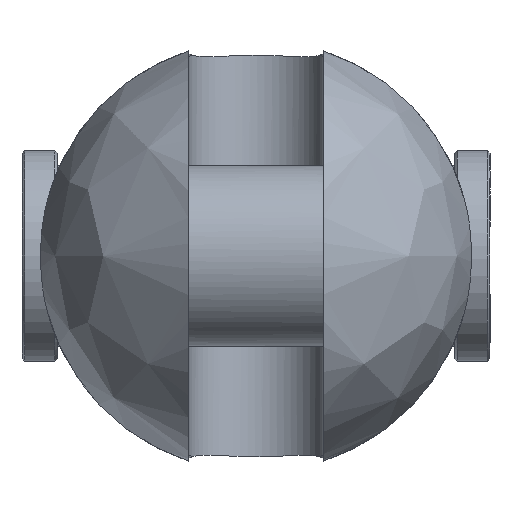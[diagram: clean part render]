
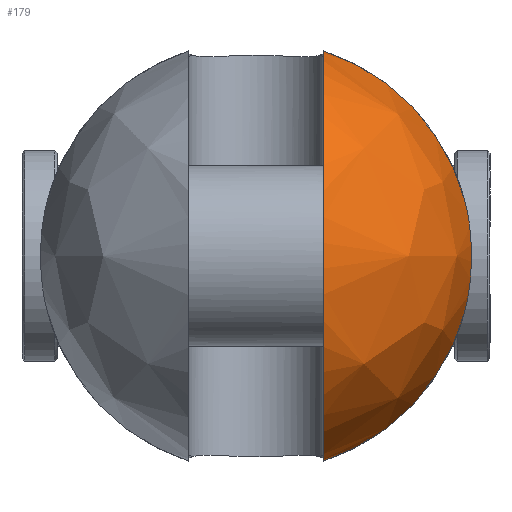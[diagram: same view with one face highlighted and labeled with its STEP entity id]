
A CAD part, left-side view. The second image highlights one B-rep face of the part: STEP entity #179.
In plain terms, the highlighted free-form (B-spline) face has degree [2, 2] with [9, 5] control points.
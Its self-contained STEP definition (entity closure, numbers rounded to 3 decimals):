
#179=ADVANCED_FACE('',(#320),#2417,.T.);
#320=FACE_OUTER_BOUND('',#481,.T.);
#481=EDGE_LOOP('',(#1194,#1195,#1196,#1197));
#1194=ORIENTED_EDGE('',*,*,#1575,.T.);
#1195=ORIENTED_EDGE('',*,*,#1603,.F.);
#1196=ORIENTED_EDGE('',*,*,#1615,.T.);
#1197=ORIENTED_EDGE('',*,*,#1595,.F.);
#1575=EDGE_CURVE('',#2249,#2248,#1983,.T.);
#1595=EDGE_CURVE('',#2249,#2261,#1993,.T.);
#1603=EDGE_CURVE('',#2268,#2248,#1994,.T.);
#1615=EDGE_CURVE('',#2268,#2261,#1789,.T.);
#1789=B_SPLINE_CURVE_WITH_KNOTS('',3,(#6091,#6092,#6093,#6094,#6095,#6096,
#6097,#6098,#6099,#6100,#6101,#6102,#6103,#6104),.UNSPECIFIED.,.F.,.F.,
(4,2,2,2,2,2,4),(0.,1.604,6.679,11.753,
16.828,21.902,23.506),.UNSPECIFIED.);
#1983=(
BOUNDED_CURVE()
B_SPLINE_CURVE(2,(#5867,#5868,#5869,#5870,#5871),.UNSPECIFIED.,.F.,.F.)
B_SPLINE_CURVE_WITH_KNOTS((3,2,3),(-128.258,-64.129,
0.),.UNSPECIFIED.)
CURVE()
GEOMETRIC_REPRESENTATION_ITEM()
RATIONAL_B_SPLINE_CURVE((1.,0.707,1.,0.707,1.))
REPRESENTATION_ITEM('')
);
#1993=(
BOUNDED_CURVE()
B_SPLINE_CURVE(2,(#5961,#5962,#5963),.UNSPECIFIED.,.F.,.F.)
B_SPLINE_CURVE_WITH_KNOTS((3,3),(0.,42.595),.UNSPECIFIED.)
CURVE()
GEOMETRIC_REPRESENTATION_ITEM()
RATIONAL_B_SPLINE_CURVE((1.,0.88,1.))
REPRESENTATION_ITEM('')
);
#1994=(
BOUNDED_CURVE()
B_SPLINE_CURVE(2,(#6018,#6019,#6020),.UNSPECIFIED.,.F.,.F.)
B_SPLINE_CURVE_WITH_KNOTS((3,3),(0.,42.595),.UNSPECIFIED.)
CURVE()
GEOMETRIC_REPRESENTATION_ITEM()
RATIONAL_B_SPLINE_CURVE((1.,0.88,1.))
REPRESENTATION_ITEM('')
);
#2248=VERTEX_POINT('',#5751);
#2249=VERTEX_POINT('',#5752);
#2261=VERTEX_POINT('',#5764);
#2268=VERTEX_POINT('',#5771);
#2417=(
BOUNDED_SURFACE()
B_SPLINE_SURFACE(2,2,((#5465,#5466,#5467,#5468,#5469),(#5470,#5471,#5472,
#5473,#5474),(#5475,#5476,#5477,#5478,#5479),(#5480,#5481,#5482,#5483,#5484),
(#5485,#5486,#5487,#5488,#5489),(#5490,#5491,#5492,#5493,#5494),(#5495,
#5496,#5497,#5498,#5499),(#5500,#5501,#5502,#5503,#5504),(#5505,#5506,#5507,
#5508,#5509)),.UNSPECIFIED.,.T.,.F.,.F.)
B_SPLINE_SURFACE_WITH_KNOTS((3,2,2,2,3),(3,2,3),(0.,67.544,135.088,
202.633,270.177),(0.,67.544,135.088),
 .UNSPECIFIED.)
GEOMETRIC_REPRESENTATION_ITEM()
RATIONAL_B_SPLINE_SURFACE(((1.,0.707,1.,0.707,1.),
(0.707,0.5,0.707,0.5,0.707),(1.,0.707,
1.,0.707,1.),(0.707,0.5,0.707,0.5,0.707),
(1.,0.707,1.,0.707,1.),(0.707,0.5,0.707,
0.5,0.707),(1.,0.707,1.,0.707,1.),(0.707,
0.5,0.707,0.5,0.707),(1.,0.707,1.,0.707,
1.)))
REPRESENTATION_ITEM('')
SURFACE()
);
#5465=CARTESIAN_POINT('',(-62.,0.,0.));
#5466=CARTESIAN_POINT('',(-62.,43.,0.));
#5467=CARTESIAN_POINT('',(-19.,43.,0.));
#5468=CARTESIAN_POINT('',(24.,43.,0.));
#5469=CARTESIAN_POINT('',(24.,0.,0.));
#5470=CARTESIAN_POINT('',(-62.,0.,0.));
#5471=CARTESIAN_POINT('',(-62.,43.,43.));
#5472=CARTESIAN_POINT('',(-19.,43.,43.));
#5473=CARTESIAN_POINT('',(24.,43.,43.));
#5474=CARTESIAN_POINT('',(24.,0.,0.));
#5475=CARTESIAN_POINT('',(-62.,0.,0.));
#5476=CARTESIAN_POINT('',(-62.,0.,43.));
#5477=CARTESIAN_POINT('',(-19.,0.,43.));
#5478=CARTESIAN_POINT('',(24.,0.,43.));
#5479=CARTESIAN_POINT('',(24.,0.,0.));
#5480=CARTESIAN_POINT('',(-62.,0.,0.));
#5481=CARTESIAN_POINT('',(-62.,-43.,43.));
#5482=CARTESIAN_POINT('',(-19.,-43.,43.));
#5483=CARTESIAN_POINT('',(24.,-43.,43.));
#5484=CARTESIAN_POINT('',(24.,0.,0.));
#5485=CARTESIAN_POINT('',(-62.,0.,0.));
#5486=CARTESIAN_POINT('',(-62.,-43.,0.));
#5487=CARTESIAN_POINT('',(-19.,-43.,0.));
#5488=CARTESIAN_POINT('',(24.,-43.,0.));
#5489=CARTESIAN_POINT('',(24.,0.,0.));
#5490=CARTESIAN_POINT('',(-62.,0.,0.));
#5491=CARTESIAN_POINT('',(-62.,-43.,-43.));
#5492=CARTESIAN_POINT('',(-19.,-43.,-43.));
#5493=CARTESIAN_POINT('',(24.,-43.,-43.));
#5494=CARTESIAN_POINT('',(24.,0.,0.));
#5495=CARTESIAN_POINT('',(-62.,0.,0.));
#5496=CARTESIAN_POINT('',(-62.,0.,-43.));
#5497=CARTESIAN_POINT('',(-19.,0.,-43.));
#5498=CARTESIAN_POINT('',(24.,0.,-43.));
#5499=CARTESIAN_POINT('',(24.,0.,0.));
#5500=CARTESIAN_POINT('',(-62.,0.,0.));
#5501=CARTESIAN_POINT('',(-62.,43.,-43.));
#5502=CARTESIAN_POINT('',(-19.,43.,-43.));
#5503=CARTESIAN_POINT('',(24.,43.,-43.));
#5504=CARTESIAN_POINT('',(24.,0.,0.));
#5505=CARTESIAN_POINT('',(-62.,0.,0.));
#5506=CARTESIAN_POINT('',(-62.,43.,0.));
#5507=CARTESIAN_POINT('',(-19.,43.,0.));
#5508=CARTESIAN_POINT('',(24.,43.,0.));
#5509=CARTESIAN_POINT('',(24.,0.,0.));
#5751=CARTESIAN_POINT('',(-19.,-13.5,-40.826));
#5752=CARTESIAN_POINT('',(-19.,-13.5,40.826));
#5764=CARTESIAN_POINT('',(-19.,-41.545,11.091));
#5771=CARTESIAN_POINT('',(-19.,-41.545,-11.091));
#5867=CARTESIAN_POINT('',(-19.,-13.5,40.826));
#5868=CARTESIAN_POINT('',(-59.826,-13.5,40.826));
#5869=CARTESIAN_POINT('',(-59.826,-13.5,0.));
#5870=CARTESIAN_POINT('',(-59.826,-13.5,-40.826));
#5871=CARTESIAN_POINT('',(-19.,-13.5,-40.826));
#5961=CARTESIAN_POINT('',(-19.,-13.5,40.826));
#5962=CARTESIAN_POINT('',(-19.,-35.554,33.533));
#5963=CARTESIAN_POINT('',(-19.,-41.545,11.091));
#6018=CARTESIAN_POINT('',(-19.,-41.545,-11.091));
#6019=CARTESIAN_POINT('',(-19.,-35.554,-33.533));
#6020=CARTESIAN_POINT('',(-19.,-13.5,-40.826));
#6091=CARTESIAN_POINT('',(-19.,-41.545,-11.091));
#6092=CARTESIAN_POINT('',(-19.266,-41.667,-10.635));
#6093=CARTESIAN_POINT('',(-19.516,-41.781,-10.169));
#6094=CARTESIAN_POINT('',(-20.488,-42.221,-8.189));
#6095=CARTESIAN_POINT('',(-21.058,-42.476,-6.586));
#6096=CARTESIAN_POINT('',(-21.815,-42.813,-3.31));
#6097=CARTESIAN_POINT('',(-22.,-42.895,-1.636));
#6098=CARTESIAN_POINT('',(-22.,-42.895,1.636));
#6099=CARTESIAN_POINT('',(-21.815,-42.813,3.31));
#6100=CARTESIAN_POINT('',(-21.058,-42.476,6.586));
#6101=CARTESIAN_POINT('',(-20.488,-42.221,8.189));
#6102=CARTESIAN_POINT('',(-19.516,-41.781,10.169));
#6103=CARTESIAN_POINT('',(-19.266,-41.667,10.635));
#6104=CARTESIAN_POINT('',(-19.,-41.545,11.091));
